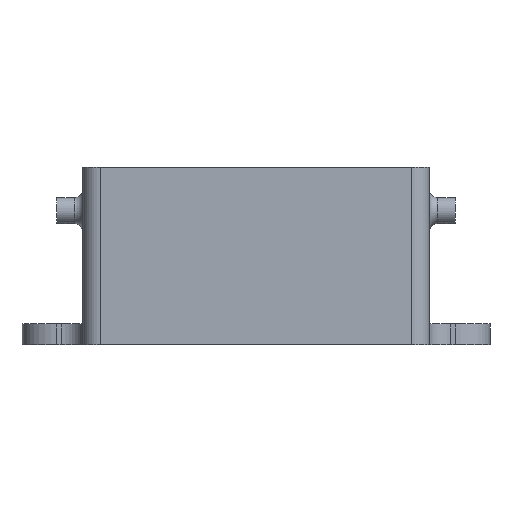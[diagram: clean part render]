
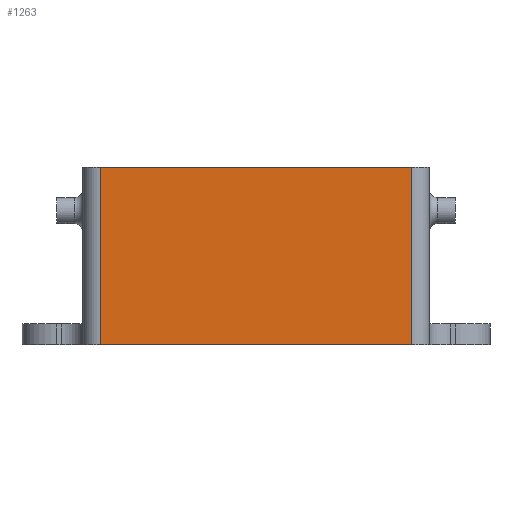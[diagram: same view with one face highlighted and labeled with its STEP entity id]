
A CAD part, left-side view. The second image highlights one B-rep face of the part: STEP entity #1263.
In plain terms, the highlighted planar face has unit normal (-1, 0, 0).
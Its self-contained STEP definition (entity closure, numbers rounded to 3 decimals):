
#183=FACE_OUTER_BOUND('',#258,.T.);
#258=EDGE_LOOP('',(#1014,#1015,#1016,#1017));
#371=LINE('',#2105,#479);
#372=LINE('',#2108,#480);
#376=LINE('',#2125,#484);
#377=LINE('',#2126,#485);
#479=VECTOR('',#1701,10.);
#480=VECTOR('',#1704,10.);
#484=VECTOR('',#1720,10.);
#485=VECTOR('',#1721,10.);
#595=VERTEX_POINT('',#2101);
#596=VERTEX_POINT('',#2103);
#597=VERTEX_POINT('',#2107);
#604=VERTEX_POINT('',#2124);
#757=EDGE_CURVE('',#596,#595,#371,.T.);
#758=EDGE_CURVE('',#595,#597,#372,.F.);
#767=EDGE_CURVE('',#596,#604,#376,.F.);
#768=EDGE_CURVE('',#597,#604,#377,.T.);
#1014=ORIENTED_EDGE('',*,*,#757,.F.);
#1015=ORIENTED_EDGE('',*,*,#767,.T.);
#1016=ORIENTED_EDGE('',*,*,#768,.F.);
#1017=ORIENTED_EDGE('',*,*,#758,.F.);
#1210=PLANE('',#1396);
#1263=ADVANCED_FACE('',(#183),#1210,.T.);
#1396=AXIS2_PLACEMENT_3D('',#2123,#1718,#1719);
#1701=DIRECTION('',(0.,0.,1.));
#1704=DIRECTION('',(0.,1.,0.));
#1718=DIRECTION('center_axis',(-1.,0.,0.));
#1719=DIRECTION('ref_axis',(0.,-1.,0.));
#1720=DIRECTION('',(0.,1.,0.));
#1721=DIRECTION('',(0.,0.,-1.));
#2101=CARTESIAN_POINT('',(-39.9,17.9,18.));
#2103=CARTESIAN_POINT('',(-39.9,17.9,-2.4));
#2105=CARTESIAN_POINT('',(-39.9,17.9,0.));
#2107=CARTESIAN_POINT('',(-39.9,-17.9,18.));
#2108=CARTESIAN_POINT('',(-39.9,8.75,18.));
#2123=CARTESIAN_POINT('Origin',(-39.9,17.5,0.));
#2124=CARTESIAN_POINT('',(-39.9,-17.9,-2.4));
#2125=CARTESIAN_POINT('',(-39.9,8.75,-2.4));
#2126=CARTESIAN_POINT('',(-39.9,-17.9,0.));
